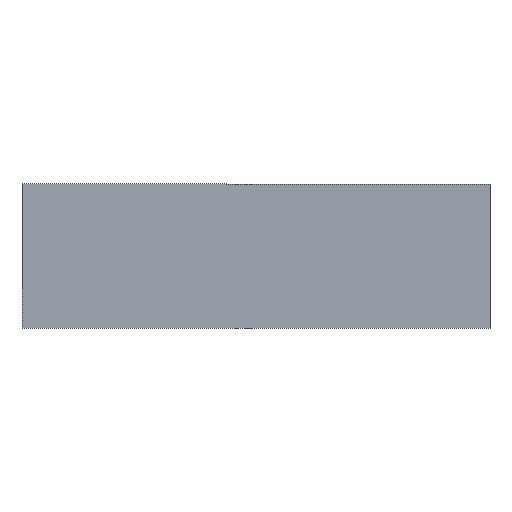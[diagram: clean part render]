
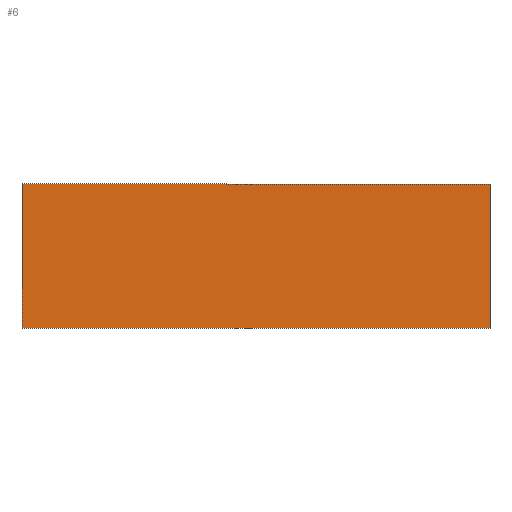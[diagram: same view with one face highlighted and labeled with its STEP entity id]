
A CAD part, front view. The second image highlights one B-rep face of the part: STEP entity #6.
In plain terms, the highlighted planar face has unit normal (0, -1, 0).
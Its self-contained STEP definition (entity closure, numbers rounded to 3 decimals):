
#1 = CARTESIAN_POINT ( 'NONE',  ( -13., -1., -8. ) ) ;
#6 = ADVANCED_FACE ( 'NONE', ( #10 ), #79, .T. ) ;
#10 = FACE_OUTER_BOUND ( 'NONE', #272, .T. ) ;
#15 = CARTESIAN_POINT ( 'NONE',  ( 13., -1., -8. ) ) ;
#16 = DIRECTION ( 'NONE',  ( 1., 0., 0. ) ) ;
#28 = LINE ( 'NONE', #237, #238 ) ;
#38 = DIRECTION ( 'NONE',  ( 0., 0., 1. ) ) ;
#40 = VECTOR ( 'NONE', #287, 1000. ) ;
#47 = EDGE_CURVE ( 'NONE', #78, #148, #28, .T. ) ;
#69 = VECTOR ( 'NONE', #38, 1000. ) ;
#73 = CARTESIAN_POINT ( 'NONE',  ( 13., -1., 0. ) ) ;
#74 = CARTESIAN_POINT ( 'NONE',  ( -13., -1., 0. ) ) ;
#78 = VERTEX_POINT ( 'NONE', #181 ) ;
#79 = PLANE ( 'NONE',  #277 ) ;
#104 = ORIENTED_EDGE ( 'NONE', *, *, #190, .F. ) ;
#108 = CARTESIAN_POINT ( 'NONE',  ( -13., -1., -8. ) ) ;
#119 = ORIENTED_EDGE ( 'NONE', *, *, #47, .T. ) ;
#127 = LINE ( 'NONE', #108, #69 ) ;
#129 = DIRECTION ( 'NONE',  ( 0., 0., -1. ) ) ;
#148 = VERTEX_POINT ( 'NONE', #268 ) ;
#151 = VECTOR ( 'NONE', #200, 1000. ) ;
#170 = EDGE_CURVE ( 'NONE', #265, #276, #195, .T. ) ;
#175 = EDGE_CURVE ( 'NONE', #148, #276, #216, .T. ) ;
#181 = CARTESIAN_POINT ( 'NONE',  ( -13., -1., -8. ) ) ;
#190 = EDGE_CURVE ( 'NONE', #78, #265, #127, .T. ) ;
#195 = LINE ( 'NONE', #252, #40 ) ;
#200 = DIRECTION ( 'NONE',  ( 0., 0., 1. ) ) ;
#208 = ORIENTED_EDGE ( 'NONE', *, *, #170, .F. ) ;
#216 = LINE ( 'NONE', #15, #151 ) ;
#236 = ORIENTED_EDGE ( 'NONE', *, *, #175, .T. ) ;
#237 = CARTESIAN_POINT ( 'NONE',  ( -13., -1., -8. ) ) ;
#238 = VECTOR ( 'NONE', #16, 1000. ) ;
#252 = CARTESIAN_POINT ( 'NONE',  ( -13., -1., 0. ) ) ;
#265 = VERTEX_POINT ( 'NONE', #74 ) ;
#268 = CARTESIAN_POINT ( 'NONE',  ( 13., -1., -8. ) ) ;
#272 = EDGE_LOOP ( 'NONE', ( #208, #104, #119, #236 ) ) ;
#276 = VERTEX_POINT ( 'NONE', #73 ) ;
#277 = AXIS2_PLACEMENT_3D ( 'NONE', #1, #278, #129 ) ;
#278 = DIRECTION ( 'NONE',  ( 0., -1., 0. ) ) ;
#287 = DIRECTION ( 'NONE',  ( 1., 0., 0. ) ) ;
